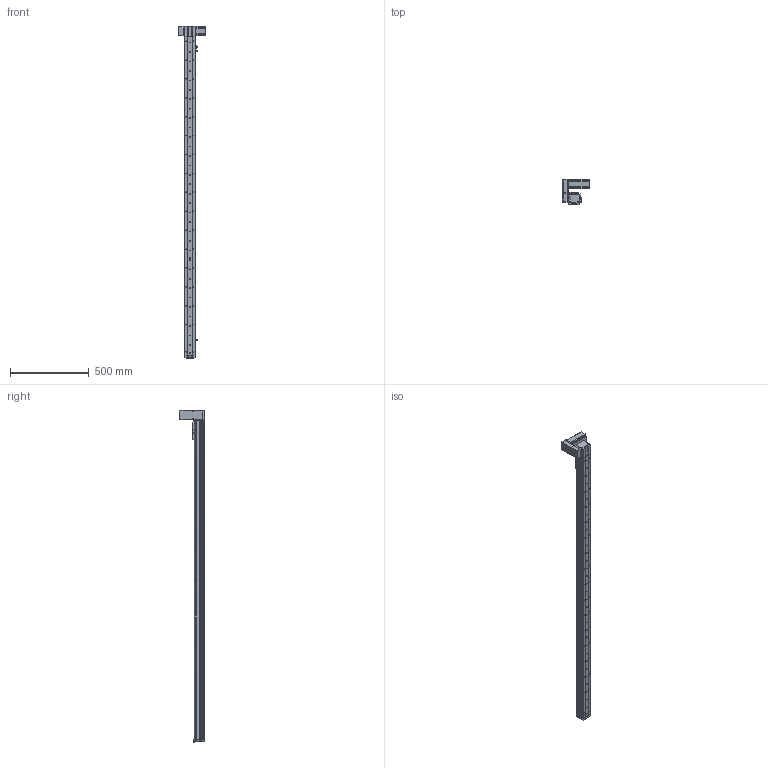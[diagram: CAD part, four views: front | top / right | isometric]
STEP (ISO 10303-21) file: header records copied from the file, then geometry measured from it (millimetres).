
FILE_DESCRIPTION (( 'STEP AP214' ), '1' );
FILE_NAME ('KSD68BS-S1850-MRU-CR.STEP', '2019-11-08T06:36:08', ( '微软用户' ), ( '微软中国' ), 'SwSTEP 2.0', 'SolidWorks 2014', '' );
FILE_SCHEMA (( 'AUTOMOTIVE_DESIGN' ));
Length unit declared in the file: millimetre
Products named in the file (14): 68单导轨全封闭同步带电机座右; 台达ECMA－C20604AS伺服电机（400W); 68遵裔啣揤啣1; 悵誘欶奻狟殏; KSD68BS 1850行程盖板全封闭; U倰嫖萇EEㄜSX672; 68宽单导轨全封闭丝杆传动安装板1防护罩; 68单导轨全封闭同步带安装板; 68宽马达安装板连板上折同步带; KSD68BS 1850行程底板全封闭; KSD68BS-S1850-MRU-CR; KSD68BS 1850行程侧板全封闭; 68宽单导轨全封闭同步带端板; 感应片68宽全封闭
Assembly tree (17 placements, depth 2):
  KSD68BS-S1850-MRU-CR
    KSD68BS 1850行程底板全封闭
    台达ECMA－C20604AS伺服电机（400W)
    U倰嫖萇EEㄜSX672  x3
    感应片68宽全封闭
    68宽马达安装板连板上折同步带
    悵誘欶奻狟殏
    68单导轨全封闭同步带安装板
    68单导轨全封闭同步带电机座右
    68宽单导轨全封闭同步带端板
    KSD68BS 1850行程侧板全封闭  x2
    68宽单导轨全封闭丝杆传动安装板1防护罩
    68遵裔啣揤啣1  x2
    KSD68BS 1850行程盖板全封闭
Bounding box: 167.2 x 159.5 x 2108.1 mm (x, y, z)
Volume: 3682753.2 mm3; surface area: 1512018.6 mm2
Topology: 18 solids, 18 shells, 1638 faces, 4735 edges, 3013 vertices
Faces by surface type: cylinder 811, plane 631, cone 196
Entity records: 53834 total; most frequent: CARTESIAN_POINT 9363, DIRECTION 8007, ORIENTED_EDGE 7658, EDGE_CURVE 3829, AXIS2_PLACEMENT_3D 2927, VERTEX_POINT 2511, VECTOR 2153, LINE 2153
